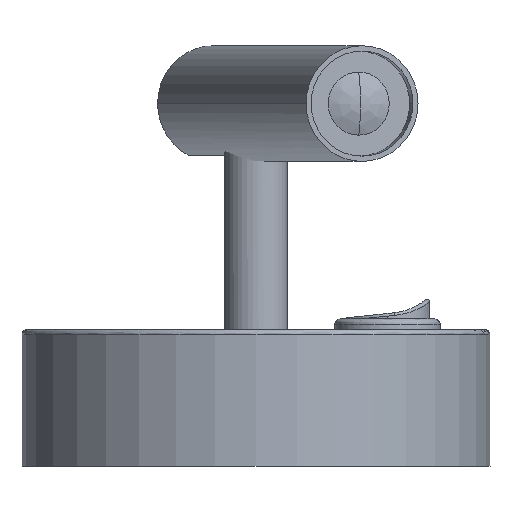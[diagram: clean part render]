
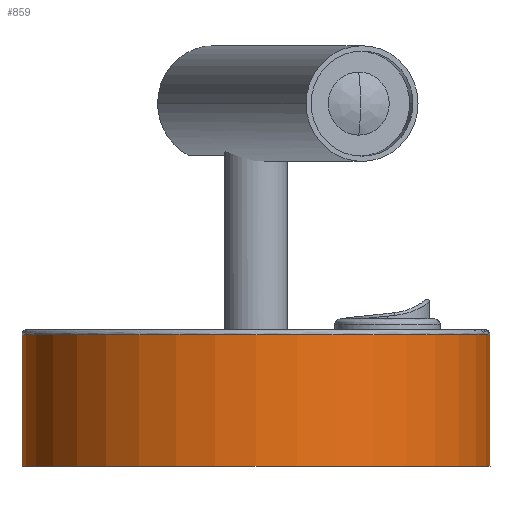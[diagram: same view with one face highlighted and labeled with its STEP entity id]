
A CAD part, left-side view. The second image highlights one B-rep face of the part: STEP entity #859.
In plain terms, the highlighted cylindrical face has radius 44.5 mm (diameter 89 mm), a partial arc.
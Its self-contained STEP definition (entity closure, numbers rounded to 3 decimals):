
#22 = EDGE_CURVE ( 'NONE', #2775, #876, #3087, .T. ) ;
#175 = VERTEX_POINT ( 'NONE', #3265 ) ;
#251 = CARTESIAN_POINT ( 'NONE',  ( 0., 25., -44.5 ) ) ;
#426 = EDGE_CURVE ( 'NONE', #2775, #2168, #1145, .T. ) ;
#593 = DIRECTION ( 'NONE',  ( 0., 1., 0. ) ) ;
#747 = DIRECTION ( 'NONE',  ( 0., 0., -1. ) ) ;
#859 = ADVANCED_FACE ( 'NONE', ( #3366 ), #2170, .T. ) ;
#876 = VERTEX_POINT ( 'NONE', #4224 ) ;
#995 = EDGE_CURVE ( 'NONE', #2168, #175, #2260, .T. ) ;
#1134 = CIRCLE ( 'NONE', #2625, 44.5 ) ;
#1145 = CIRCLE ( 'NONE', #2365, 44.5 ) ;
#1363 = ORIENTED_EDGE ( 'NONE', *, *, #426, .F. ) ;
#1420 = DIRECTION ( 'NONE',  ( 0., -1., 0. ) ) ;
#1840 = VECTOR ( 'NONE', #4282, 1000. ) ;
#2085 = EDGE_CURVE ( 'NONE', #175, #876, #1134, .T. ) ;
#2137 = CARTESIAN_POINT ( 'NONE',  ( 0., 25., 0. ) ) ;
#2168 = VERTEX_POINT ( 'NONE', #2679 ) ;
#2170 = CYLINDRICAL_SURFACE ( 'NONE', #4134, 44.5 ) ;
#2260 = LINE ( 'NONE', #3217, #1840 ) ;
#2365 = AXIS2_PLACEMENT_3D ( 'NONE', #4416, #593, #4399 ) ;
#2625 = AXIS2_PLACEMENT_3D ( 'NONE', #3383, #3773, #2734 ) ;
#2679 = CARTESIAN_POINT ( 'NONE',  ( 0., 25., 44.5 ) ) ;
#2734 = DIRECTION ( 'NONE',  ( 0., 0., -1. ) ) ;
#2775 = VERTEX_POINT ( 'NONE', #251 ) ;
#2975 = VECTOR ( 'NONE', #3189, 1000. ) ;
#3087 = LINE ( 'NONE', #3559, #2975 ) ;
#3189 = DIRECTION ( 'NONE',  ( 0., -1., 0. ) ) ;
#3217 = CARTESIAN_POINT ( 'NONE',  ( 0., 25., 44.5 ) ) ;
#3265 = CARTESIAN_POINT ( 'NONE',  ( 0., 0., 44.5 ) ) ;
#3366 = FACE_OUTER_BOUND ( 'NONE', #3527, .T. ) ;
#3372 = ORIENTED_EDGE ( 'NONE', *, *, #2085, .F. ) ;
#3383 = CARTESIAN_POINT ( 'NONE',  ( 0., 0., 0. ) ) ;
#3527 = EDGE_LOOP ( 'NONE', ( #3960, #1363, #4094, #3372 ) ) ;
#3559 = CARTESIAN_POINT ( 'NONE',  ( 0., 25., -44.5 ) ) ;
#3773 = DIRECTION ( 'NONE',  ( 0., -1., 0. ) ) ;
#3960 = ORIENTED_EDGE ( 'NONE', *, *, #995, .F. ) ;
#4094 = ORIENTED_EDGE ( 'NONE', *, *, #22, .T. ) ;
#4134 = AXIS2_PLACEMENT_3D ( 'NONE', #2137, #1420, #747 ) ;
#4224 = CARTESIAN_POINT ( 'NONE',  ( 0., 0., -44.5 ) ) ;
#4282 = DIRECTION ( 'NONE',  ( 0., -1., 0. ) ) ;
#4399 = DIRECTION ( 'NONE',  ( -1., 0., 0. ) ) ;
#4416 = CARTESIAN_POINT ( 'NONE',  ( 0., 25., 0. ) ) ;
